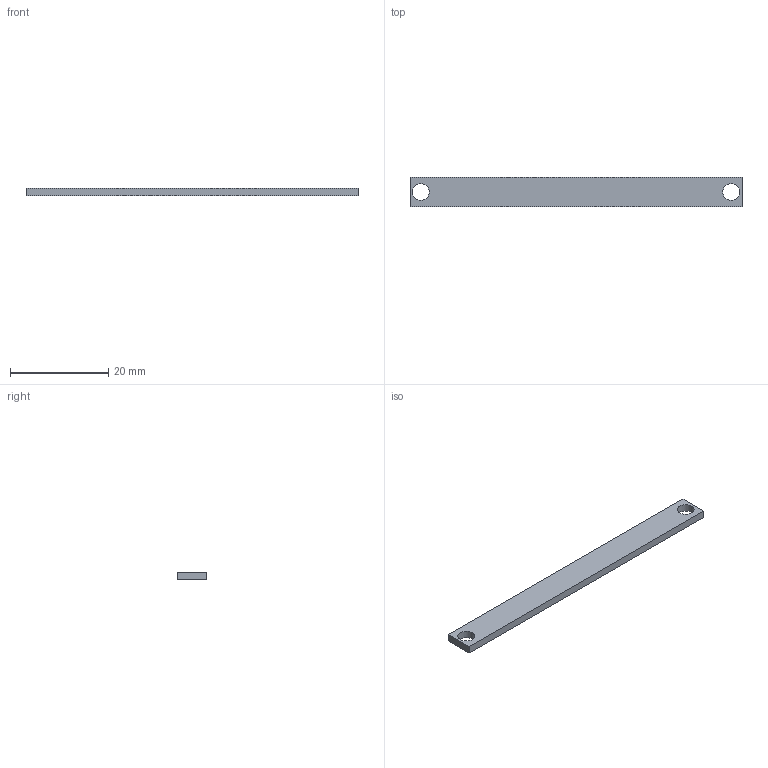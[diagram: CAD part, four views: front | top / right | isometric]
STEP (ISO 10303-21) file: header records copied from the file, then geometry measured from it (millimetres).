
FILE_DESCRIPTION(('FreeCAD Model'),'2;1');
FILE_NAME('Open CASCADE Shape Model','2026-11-20T08:25:38',('FreeCAD'),( 'FreeCAD'),'Open CASCADE STEP processor 7.8','FreeCAD','Unknown');
FILE_SCHEMA(('AUTOMOTIVE_DESIGN { 1 0 10303 214 1 1 1 1 }'));
Length unit declared in the file: millimetre
Products named in the file (1): Open CASCADE STEP translator 7.8 53
Bounding box: 67.6 x 6 x 1.6 mm (x, y, z)
Volume: 619.9 mm3; surface area: 1044.6 mm2
Topology: 1 solids, 1 shells, 8 faces, 18 edges, 12 vertices
Faces by surface type: plane 6, cylinder 2
Full cylindrical faces by diameter (mm): 3.4 x2
Entity records: 244 total; most frequent: DIRECTION 40, CARTESIAN_POINT 39, ORIENTED_EDGE 36, EDGE_CURVE 18, LINE 14, VECTOR 14, AXIS2_PLACEMENT_3D 13, FACE_BOUND 12
